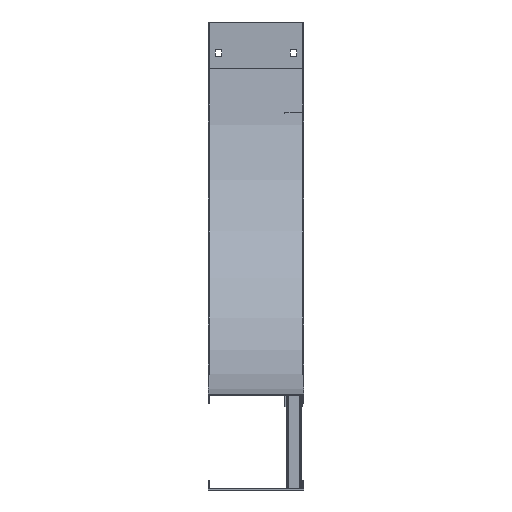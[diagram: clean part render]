
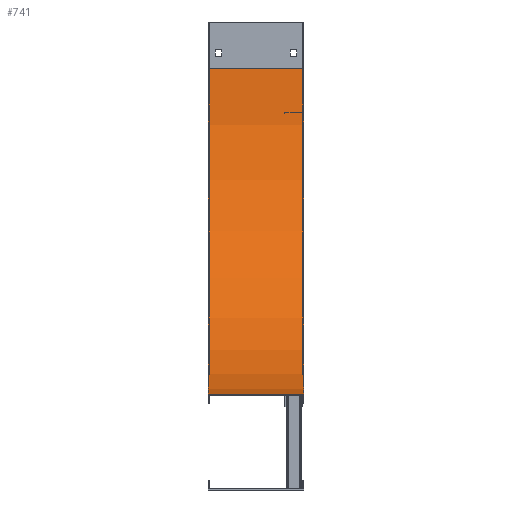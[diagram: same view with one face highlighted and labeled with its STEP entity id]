
A CAD part, left-side view. The second image highlights one B-rep face of the part: STEP entity #741.
In plain terms, the highlighted cylindrical face has radius 533.4 mm (diameter 1066.8 mm), a partial arc.
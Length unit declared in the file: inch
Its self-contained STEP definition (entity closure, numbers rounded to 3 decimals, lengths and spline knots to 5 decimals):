
#156=CARTESIAN_POINT('',(0.,-21.,3.));
#157=DIRECTION('',(1.,0.,0.));
#158=DIRECTION('',(0.,1.,0.));
#159=AXIS2_PLACEMENT_3D('',#156,#157,#158);
#165=DIRECTION('',(1.,0.,0.));
#166=VECTOR('',#165,6.19);
#167=CARTESIAN_POINT('',(-6.19,0.,3.));
#168=LINE('',#167,#166);
#169=CARTESIAN_POINT('',(-6.19,-21.,3.));
#170=DIRECTION('',(1.,0.,0.));
#171=DIRECTION('',(0.,1.,0.));
#172=AXIS2_PLACEMENT_3D('',#169,#170,#171);
#174=DIRECTION('',(1.,0.,0.));
#175=VECTOR('',#174,6.19);
#176=CARTESIAN_POINT('',(-6.19,-21.,24.));
#177=LINE('',#176,#175);
#409=CARTESIAN_POINT('',(-6.19,0.,3.));
#410=CARTESIAN_POINT('',(0.,0.,3.));
#411=VERTEX_POINT('',#409);
#412=VERTEX_POINT('',#410);
#425=CARTESIAN_POINT('',(-6.19,-21.,24.));
#426=CARTESIAN_POINT('',(0.,-21.,24.));
#427=VERTEX_POINT('',#425);
#428=VERTEX_POINT('',#426);
#729=CARTESIAN_POINT('',(-1.,-21.,3.));
#730=DIRECTION('',(1.,0.,0.));
#731=DIRECTION('',(0.,-1.,0.));
#732=AXIS2_PLACEMENT_3D('',#729,#730,#731);
#733=CYLINDRICAL_SURFACE('',#732,21.);
#734=ORIENTED_EDGE('',*,*,#553,.F.);
#735=ORIENTED_EDGE('',*,*,#596,.T.);
#737=ORIENTED_EDGE('',*,*,#736,.T.);
#738=ORIENTED_EDGE('',*,*,#715,.F.);
#739=EDGE_LOOP('',(#734,#735,#737,#738));
#740=FACE_OUTER_BOUND('',#739,.F.);
#741=ADVANCED_FACE('',(#740),#733,.F.);
#160=CIRCLE('',#159,21.);
#173=CIRCLE('',#172,21.);
#553=EDGE_CURVE('',#411,#412,#168,.T.);
#596=EDGE_CURVE('',#411,#427,#173,.T.);
#715=EDGE_CURVE('',#412,#428,#160,.T.);
#736=EDGE_CURVE('',#427,#428,#177,.T.);
